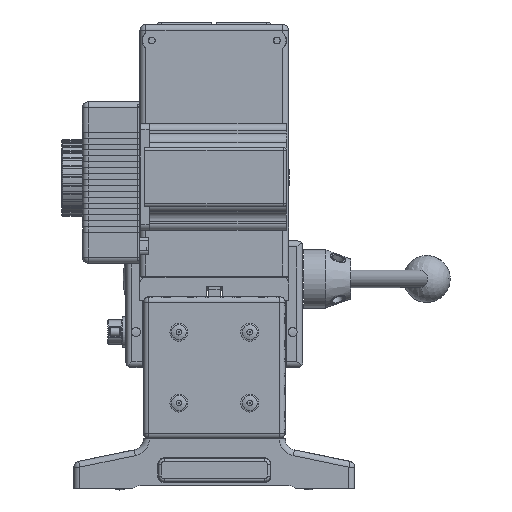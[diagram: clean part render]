
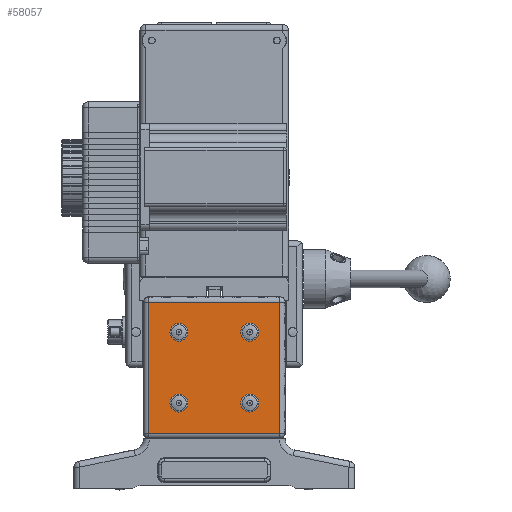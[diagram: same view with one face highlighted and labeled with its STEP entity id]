
A CAD part, front view. The second image highlights one B-rep face of the part: STEP entity #58057.
In plain terms, the highlighted planar face has unit normal (0, -1, 0).
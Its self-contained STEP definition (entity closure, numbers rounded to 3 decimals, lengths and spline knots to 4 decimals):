
#1348=FACE_BOUND('',#8126,.T.);
#1349=FACE_BOUND('',#8127,.T.);
#1350=FACE_BOUND('',#8128,.T.);
#1351=FACE_BOUND('',#8129,.T.);
#2192=PLANE('',#62203);
#4735=FACE_OUTER_BOUND('',#8125,.T.);
#8125=EDGE_LOOP('',(#45301,#45302,#45303,#45304));
#8126=EDGE_LOOP('',(#45305,#45306));
#8127=EDGE_LOOP('',(#45307,#45308));
#8128=EDGE_LOOP('',(#45309,#45310));
#8129=EDGE_LOOP('',(#45311,#45312));
#12330=LINE('',#97701,#18063);
#12331=LINE('',#97703,#18064);
#12332=LINE('',#97705,#18065);
#12333=LINE('',#97706,#18066);
#18063=VECTOR('',#71911,37.5453);
#18064=VECTOR('',#71912,37.5453);
#18065=VECTOR('',#71913,37.5453);
#18066=VECTOR('',#71914,37.5453);
#22753=CIRCLE('',#62204,0.1907);
#22754=CIRCLE('',#62205,0.1907);
#22755=CIRCLE('',#62206,0.1907);
#22756=CIRCLE('',#62207,0.1907);
#22757=CIRCLE('',#62208,0.1907);
#22758=CIRCLE('',#62209,0.1907);
#22759=CIRCLE('',#62210,0.1907);
#22760=CIRCLE('',#62211,0.1907);
#26476=VERTEX_POINT('',#97699);
#26477=VERTEX_POINT('',#97700);
#26478=VERTEX_POINT('',#97702);
#26479=VERTEX_POINT('',#97704);
#26480=VERTEX_POINT('',#97707);
#26481=VERTEX_POINT('',#97708);
#26482=VERTEX_POINT('',#97711);
#26483=VERTEX_POINT('',#97712);
#26484=VERTEX_POINT('',#97715);
#26485=VERTEX_POINT('',#97716);
#26486=VERTEX_POINT('',#97719);
#26487=VERTEX_POINT('',#97720);
#33361=EDGE_CURVE('',#26476,#26477,#12330,.T.);
#33362=EDGE_CURVE('',#26477,#26478,#12331,.T.);
#33363=EDGE_CURVE('',#26478,#26479,#12332,.T.);
#33364=EDGE_CURVE('',#26479,#26476,#12333,.T.);
#33365=EDGE_CURVE('',#26480,#26481,#22753,.T.);
#33366=EDGE_CURVE('',#26481,#26480,#22754,.T.);
#33367=EDGE_CURVE('',#26482,#26483,#22755,.T.);
#33368=EDGE_CURVE('',#26483,#26482,#22756,.T.);
#33369=EDGE_CURVE('',#26484,#26485,#22757,.T.);
#33370=EDGE_CURVE('',#26485,#26484,#22758,.T.);
#33371=EDGE_CURVE('',#26486,#26487,#22759,.T.);
#33372=EDGE_CURVE('',#26487,#26486,#22760,.T.);
#45301=ORIENTED_EDGE('',*,*,#33361,.T.);
#45302=ORIENTED_EDGE('',*,*,#33362,.T.);
#45303=ORIENTED_EDGE('',*,*,#33363,.T.);
#45304=ORIENTED_EDGE('',*,*,#33364,.T.);
#45305=ORIENTED_EDGE('',*,*,#33365,.T.);
#45306=ORIENTED_EDGE('',*,*,#33366,.T.);
#45307=ORIENTED_EDGE('',*,*,#33367,.T.);
#45308=ORIENTED_EDGE('',*,*,#33368,.T.);
#45309=ORIENTED_EDGE('',*,*,#33369,.T.);
#45310=ORIENTED_EDGE('',*,*,#33370,.T.);
#45311=ORIENTED_EDGE('',*,*,#33371,.T.);
#45312=ORIENTED_EDGE('',*,*,#33372,.T.);
#58057=ADVANCED_FACE('',(#4735,#1348,#1349,#1350,#1351),#2192,.T.);
#62203=AXIS2_PLACEMENT_3D('',#97698,#71909,#71910);
#62204=AXIS2_PLACEMENT_3D('',#97709,#71915,#71916);
#62205=AXIS2_PLACEMENT_3D('',#97710,#71917,#71918);
#62206=AXIS2_PLACEMENT_3D('',#97713,#71919,#71920);
#62207=AXIS2_PLACEMENT_3D('',#97714,#71921,#71922);
#62208=AXIS2_PLACEMENT_3D('',#97717,#71923,#71924);
#62209=AXIS2_PLACEMENT_3D('',#97718,#71925,#71926);
#62210=AXIS2_PLACEMENT_3D('',#97721,#71927,#71928);
#62211=AXIS2_PLACEMENT_3D('',#97722,#71929,#71930);
#71909=DIRECTION('center_axis',(0.,-1.,0.));
#71910=DIRECTION('ref_axis',(1.,0.,0.));
#71911=DIRECTION('',(-1.,0.,0.));
#71912=DIRECTION('',(0.,0.,-1.));
#71913=DIRECTION('',(1.,0.,0.));
#71914=DIRECTION('',(0.,0.,1.));
#71915=DIRECTION('center_axis',(0.,1.,0.));
#71916=DIRECTION('ref_axis',(0.,0.,1.));
#71917=DIRECTION('center_axis',(0.,1.,0.));
#71918=DIRECTION('ref_axis',(0.,0.,1.));
#71919=DIRECTION('center_axis',(0.,1.,0.));
#71920=DIRECTION('ref_axis',(0.,0.,1.));
#71921=DIRECTION('center_axis',(0.,1.,0.));
#71922=DIRECTION('ref_axis',(0.,0.,1.));
#71923=DIRECTION('center_axis',(0.,1.,0.));
#71924=DIRECTION('ref_axis',(0.,0.,1.));
#71925=DIRECTION('center_axis',(0.,1.,0.));
#71926=DIRECTION('ref_axis',(0.,0.,1.));
#71927=DIRECTION('center_axis',(0.,1.,0.));
#71928=DIRECTION('ref_axis',(0.,0.,1.));
#71929=DIRECTION('center_axis',(0.,1.,0.));
#71930=DIRECTION('ref_axis',(0.,0.,1.));
#97698=CARTESIAN_POINT('Origin',(55.5503,86.3601,8.0011));
#97699=CARTESIAN_POINT('',(56.9395,86.3601,9.3903));
#97700=CARTESIAN_POINT('',(54.1611,86.3601,9.3903));
#97701=CARTESIAN_POINT('',(56.9395,86.3601,9.3903));
#97702=CARTESIAN_POINT('',(54.1611,86.3601,6.6119));
#97703=CARTESIAN_POINT('',(54.1611,86.3601,9.3903));
#97704=CARTESIAN_POINT('',(56.9395,86.3601,6.6119));
#97705=CARTESIAN_POINT('',(54.1611,86.3601,6.6119));
#97706=CARTESIAN_POINT('',(56.9395,86.3601,6.6119));
#97707=CARTESIAN_POINT('',(56.3012,86.3601,7.4409));
#97708=CARTESIAN_POINT('',(56.3012,86.3601,7.0595));
#97709=CARTESIAN_POINT('Origin',(56.3012,86.3601,7.2502));
#97710=CARTESIAN_POINT('Origin',(56.3012,86.3601,7.2502));
#97711=CARTESIAN_POINT('',(54.7994,86.3601,8.9427));
#97712=CARTESIAN_POINT('',(54.7994,86.3601,8.5613));
#97713=CARTESIAN_POINT('Origin',(54.7994,86.3601,8.752));
#97714=CARTESIAN_POINT('Origin',(54.7994,86.3601,8.752));
#97715=CARTESIAN_POINT('',(56.3012,86.3601,8.9427));
#97716=CARTESIAN_POINT('',(56.3012,86.3601,8.5613));
#97717=CARTESIAN_POINT('Origin',(56.3012,86.3601,8.752));
#97718=CARTESIAN_POINT('Origin',(56.3012,86.3601,8.752));
#97719=CARTESIAN_POINT('',(54.7994,86.3601,7.4409));
#97720=CARTESIAN_POINT('',(54.7994,86.3601,7.0595));
#97721=CARTESIAN_POINT('Origin',(54.7994,86.3601,7.2502));
#97722=CARTESIAN_POINT('Origin',(54.7994,86.3601,7.2502));
